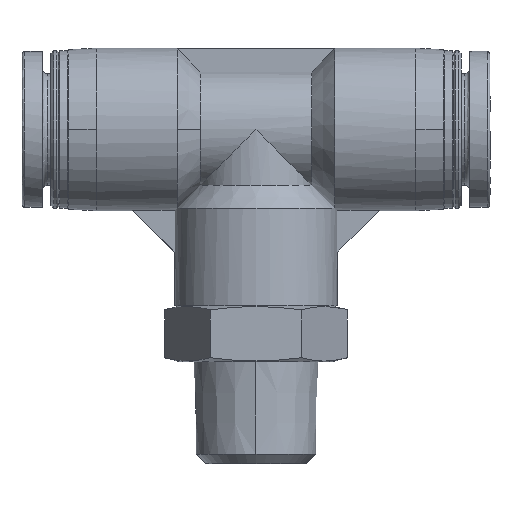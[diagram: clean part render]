
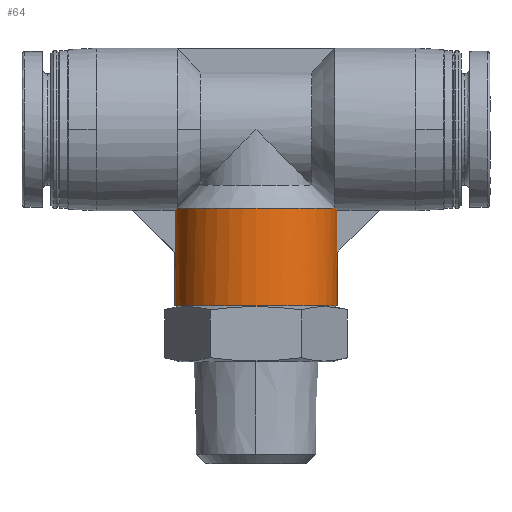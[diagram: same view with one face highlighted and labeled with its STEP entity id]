
A CAD part, front view. The second image highlights one B-rep face of the part: STEP entity #64.
In plain terms, the highlighted cylindrical face has radius 8.75 mm (diameter 17.5 mm), a partial arc.
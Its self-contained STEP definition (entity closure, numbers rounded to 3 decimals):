
#30 = VERTEX_POINT ( 'NONE', #3520 ) ;
#64 = ADVANCED_FACE ( '39', ( #533 ), #2585, .T. ) ;
#67 = ORIENTED_EDGE ( 'NONE', *, *, #2083, .T. ) ;
#121 = EDGE_CURVE ( 'NONE', #370, #2715, #830, .T. ) ;
#189 = LINE ( 'NONE', #1724, #2252 ) ;
#266 =( BOUNDED_CURVE ( )  B_SPLINE_CURVE ( 3, ( #3070, #2860, #2108, #2122 ),
 .UNSPECIFIED., .F., .T. ) 
 B_SPLINE_CURVE_WITH_KNOTS ( ( 4, 4 ),
 ( 0.115, 0.24 ),
 .UNSPECIFIED. ) 
 CURVE ( )  GEOMETRIC_REPRESENTATION_ITEM ( )  RATIONAL_B_SPLINE_CURVE ( ( 1., 0.999, 0.999, 1. ) ) 
 REPRESENTATION_ITEM ( '' )  );
#299 = DIRECTION ( 'NONE',  ( 1., 0., 0. ) ) ;
#313 = VECTOR ( 'NONE', #3489, 1000. ) ;
#370 = VERTEX_POINT ( 'NONE', #2193 ) ;
#385 = DIRECTION ( 'NONE',  ( 0.975, -0.222, 0. ) ) ;
#533 = FACE_OUTER_BOUND ( 'NONE', #3463, .T. ) ;
#534 = AXIS2_PLACEMENT_3D ( 'NONE', #771, #841, #647 ) ;
#541 = CARTESIAN_POINT ( 'NONE',  ( -8.75, 0., 17. ) ) ;
#559 = CIRCLE ( 'NONE', #2864, 8.75 ) ;
#571 = CARTESIAN_POINT ( 'NONE',  ( 0., 0., 17. ) ) ;
#579 = VERTEX_POINT ( 'NONE', #1351 ) ;
#581 = ORIENTED_EDGE ( 'NONE', *, *, #1566, .F. ) ;
#647 = DIRECTION ( 'NONE',  ( 1., 0., 0. ) ) ;
#648 = VERTEX_POINT ( 'NONE', #720 ) ;
#720 = CARTESIAN_POINT ( 'NONE',  ( 8.75, 0., 17. ) ) ;
#765 = AXIS2_PLACEMENT_3D ( 'NONE', #3363, #1775, #385 ) ;
#771 = CARTESIAN_POINT ( 'NONE',  ( 0., 0., 17. ) ) ;
#790 = CARTESIAN_POINT ( 'NONE',  ( -8.693, -1., 22.693 ) ) ;
#815 = CIRCLE ( 'NONE', #765, 8.75 ) ;
#830 =( BOUNDED_CURVE ( )  B_SPLINE_CURVE ( 3, ( #2457, #2327, #2369, #2512 ),
 .UNSPECIFIED., .F., .T. ) 
 B_SPLINE_CURVE_WITH_KNOTS ( ( 4, 4 ),
 ( 6.169, 6.283 ),
 .UNSPECIFIED. ) 
 CURVE ( )  GEOMETRIC_REPRESENTATION_ITEM ( )  RATIONAL_B_SPLINE_CURVE ( ( 1., 0.999, 0.999, 1. ) ) 
 REPRESENTATION_ITEM ( '' )  );
#841 = DIRECTION ( 'NONE',  ( 0., 0., 1. ) ) ;
#860 = CARTESIAN_POINT ( 'NONE',  ( -8.731, -0.668, 22.731 ) ) ;
#891 = CARTESIAN_POINT ( 'NONE',  ( -8.75, -0.334, 22.75 ) ) ;
#1050 = ORIENTED_EDGE ( 'NONE', *, *, #1902, .T. ) ;
#1105 = CARTESIAN_POINT ( 'NONE',  ( -8.75, 0., 22.75 ) ) ;
#1120 = EDGE_CURVE ( 'NONE', #3499, #370, #189, .T. ) ;
#1137 = CARTESIAN_POINT ( 'NONE',  ( -8.693, -1., 27.307 ) ) ;
#1147 = CARTESIAN_POINT ( 'NONE',  ( -8.651, -1.363, 27.349 ) ) ;
#1174 = EDGE_CURVE ( 'NONE', #579, #2534, #3385, .T. ) ;
#1207 = CARTESIAN_POINT ( 'NONE',  ( -8.5, -2.077, 27.5 ) ) ;
#1238 = ORIENTED_EDGE ( 'NONE', *, *, #1120, .F. ) ;
#1288 = CARTESIAN_POINT ( 'NONE',  ( -8.75, 0., 17. ) ) ;
#1303 = VECTOR ( 'NONE', #3314, 1000. ) ;
#1311 = EDGE_CURVE ( 'NONE', #1332, #2429, #3210, .T. ) ;
#1332 = VERTEX_POINT ( 'NONE', #541 ) ;
#1351 = CARTESIAN_POINT ( 'NONE',  ( -8.5, -2.077, 27.5 ) ) ;
#1466 = ORIENTED_EDGE ( 'NONE', *, *, #1174, .T. ) ;
#1509 = ORIENTED_EDGE ( 'NONE', *, *, #2508, .T. ) ;
#1566 = EDGE_CURVE ( 'NONE', #30, #2534, #2734, .T. ) ;
#1597 = CARTESIAN_POINT ( 'NONE',  ( 8.5, -2.077, 27.5 ) ) ;
#1612 = ORIENTED_EDGE ( 'NONE', *, *, #3484, .F. ) ;
#1685 = DIRECTION ( 'NONE',  ( 0., 0., -1. ) ) ;
#1702 = EDGE_CURVE ( 'NONE', #2429, #30, #3403, .T. ) ;
#1724 = CARTESIAN_POINT ( 'NONE',  ( 8.693, -1., 27.307 ) ) ;
#1727 = CARTESIAN_POINT ( 'NONE',  ( -8.693, -1., 27.307 ) ) ;
#1729 = CARTESIAN_POINT ( 'NONE',  ( 8.693, -1., 27.307 ) ) ;
#1773 = CARTESIAN_POINT ( 'NONE',  ( 8.75, 0., 22.75 ) ) ;
#1775 = DIRECTION ( 'NONE',  ( 0., 0., 1. ) ) ;
#1797 = CARTESIAN_POINT ( 'NONE',  ( -8.587, -1.722, 27.413 ) ) ;
#1902 = EDGE_CURVE ( 'NONE', #648, #2715, #2062, .T. ) ;
#1979 = CARTESIAN_POINT ( 'NONE',  ( 8.75, 0., 17. ) ) ;
#2024 = VECTOR ( 'NONE', #2435, 1000. ) ;
#2062 = LINE ( 'NONE', #1979, #1303 ) ;
#2083 = EDGE_CURVE ( 'NONE', #3499, #2340, #266, .T. ) ;
#2108 = CARTESIAN_POINT ( 'NONE',  ( 8.587, -1.722, 27.413 ) ) ;
#2122 = CARTESIAN_POINT ( 'NONE',  ( 8.5, -2.077, 27.5 ) ) ;
#2193 = CARTESIAN_POINT ( 'NONE',  ( 8.693, -1., 22.693 ) ) ;
#2252 = VECTOR ( 'NONE', #1685, 1000. ) ;
#2266 = DIRECTION ( 'NONE',  ( 0., 0., 1. ) ) ;
#2327 = CARTESIAN_POINT ( 'NONE',  ( 8.731, -0.668, 22.731 ) ) ;
#2340 = VERTEX_POINT ( 'NONE', #1597 ) ;
#2369 = CARTESIAN_POINT ( 'NONE',  ( 8.75, -0.334, 22.75 ) ) ;
#2422 = CARTESIAN_POINT ( 'NONE',  ( -8.693, -1., 27.307 ) ) ;
#2429 = VERTEX_POINT ( 'NONE', #2832 ) ;
#2435 = DIRECTION ( 'NONE',  ( 0., 0., 1. ) ) ;
#2457 = CARTESIAN_POINT ( 'NONE',  ( 8.693, -1., 22.693 ) ) ;
#2508 = EDGE_CURVE ( 'NONE', #1332, #648, #559, .T. ) ;
#2512 = CARTESIAN_POINT ( 'NONE',  ( 8.75, 0., 22.75 ) ) ;
#2514 = ORIENTED_EDGE ( 'NONE', *, *, #1702, .F. ) ;
#2534 = VERTEX_POINT ( 'NONE', #1727 ) ;
#2585 = CYLINDRICAL_SURFACE ( 'NONE', #534, 8.75 ) ;
#2715 = VERTEX_POINT ( 'NONE', #1773 ) ;
#2734 = LINE ( 'NONE', #2422, #2024 ) ;
#2832 = CARTESIAN_POINT ( 'NONE',  ( -8.75, 0., 22.75 ) ) ;
#2860 = CARTESIAN_POINT ( 'NONE',  ( 8.651, -1.363, 27.349 ) ) ;
#2864 = AXIS2_PLACEMENT_3D ( 'NONE', #571, #2266, #299 ) ;
#3025 = ORIENTED_EDGE ( 'NONE', *, *, #1311, .F. ) ;
#3070 = CARTESIAN_POINT ( 'NONE',  ( 8.693, -1., 27.307 ) ) ;
#3210 = LINE ( 'NONE', #1288, #313 ) ;
#3314 = DIRECTION ( 'NONE',  ( 0., 0., 1. ) ) ;
#3337 = ORIENTED_EDGE ( 'NONE', *, *, #121, .F. ) ;
#3363 = CARTESIAN_POINT ( 'NONE',  ( 0., 0., 27.5 ) ) ;
#3385 =( BOUNDED_CURVE ( )  B_SPLINE_CURVE ( 3, ( #1207, #1797, #1147, #1137 ),
 .UNSPECIFIED., .F., .T. ) 
 B_SPLINE_CURVE_WITH_KNOTS ( ( 4, 4 ),
 ( 2.902, 3.027 ),
 .UNSPECIFIED. ) 
 CURVE ( )  GEOMETRIC_REPRESENTATION_ITEM ( )  RATIONAL_B_SPLINE_CURVE ( ( 1., 0.999, 0.999, 1. ) ) 
 REPRESENTATION_ITEM ( '' )  );
#3403 =( BOUNDED_CURVE ( )  B_SPLINE_CURVE ( 3, ( #1105, #891, #860, #790 ),
 .UNSPECIFIED., .F., .F. ) 
 B_SPLINE_CURVE_WITH_KNOTS ( ( 4, 4 ),
 ( 0., 0.115 ),
 .UNSPECIFIED. ) 
 CURVE ( )  GEOMETRIC_REPRESENTATION_ITEM ( )  RATIONAL_B_SPLINE_CURVE ( ( 1., 0.999, 0.999, 1. ) ) 
 REPRESENTATION_ITEM ( '' )  );
#3463 = EDGE_LOOP ( 'NONE', ( #3025, #1509, #1050, #3337, #1238, #67, #1612, #1466, #581, #2514 ) ) ;
#3484 = EDGE_CURVE ( 'NONE', #579, #2340, #815, .T. ) ;
#3489 = DIRECTION ( 'NONE',  ( 0., 0., 1. ) ) ;
#3499 = VERTEX_POINT ( 'NONE', #1729 ) ;
#3520 = CARTESIAN_POINT ( 'NONE',  ( -8.693, -1., 22.693 ) ) ;
